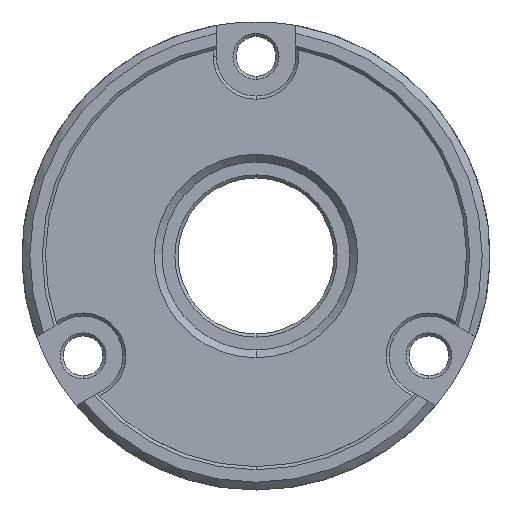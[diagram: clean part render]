
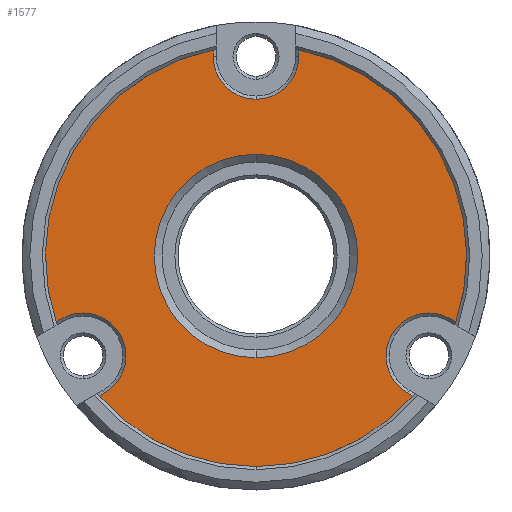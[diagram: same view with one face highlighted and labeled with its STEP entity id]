
A CAD part, front view. The second image highlights one B-rep face of the part: STEP entity #1577.
In plain terms, the highlighted planar face has unit normal (0, -1, 0).
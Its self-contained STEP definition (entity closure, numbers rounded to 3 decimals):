
#56 = VECTOR ( 'NONE', #1517, 1000. ) ;
#66 = CARTESIAN_POINT ( 'NONE',  ( 1.375, 0., -2.382 ) ) ;
#74 = ORIENTED_EDGE ( 'NONE', *, *, #2364, .T. ) ;
#103 = CARTESIAN_POINT ( 'NONE',  ( -2.75, 0., 0. ) ) ;
#115 = EDGE_CURVE ( 'NONE', #352, #1662, #3115, .T. ) ;
#120 = LINE ( 'NONE', #103, #2687 ) ;
#230 = FACE_BOUND ( 'NONE', #1177, .T. ) ;
#232 = ORIENTED_EDGE ( 'NONE', *, *, #640, .F. ) ;
#307 = LINE ( 'NONE', #66, #1100 ) ;
#347 = VERTEX_POINT ( 'NONE', #2354 ) ;
#352 = VERTEX_POINT ( 'NONE', #3549 ) ;
#388 = CIRCLE ( 'NONE', #3218, 2.75 ) ;
#454 = ORIENTED_EDGE ( 'NONE', *, *, #1838, .T. ) ;
#461 = AXIS2_PLACEMENT_3D ( 'NONE', #1446, #812, #2043 ) ;
#478 = CARTESIAN_POINT ( 'NONE',  ( 10.071, 0., -8.99 ) ) ;
#536 = CARTESIAN_POINT ( 'NONE',  ( 0., 0., 0. ) ) ;
#540 = ORIENTED_EDGE ( 'NONE', *, *, #2345, .T. ) ;
#582 = DIRECTION ( 'NONE',  ( 0., 0., -1. ) ) ;
#593 = ORIENTED_EDGE ( 'NONE', *, *, #115, .F. ) ;
#640 = EDGE_CURVE ( 'NONE', #3530, #347, #1364, .T. ) ;
#655 = CIRCLE ( 'NONE', #3753, 6.525 ) ;
#762 = LINE ( 'NONE', #3508, #2259 ) ;
#782 = CARTESIAN_POINT ( 'NONE',  ( 0., 0., -6.525 ) ) ;
#812 = DIRECTION ( 'NONE',  ( 0., 1., 0. ) ) ;
#882 = LINE ( 'NONE', #1172, #3154 ) ;
#909 = ORIENTED_EDGE ( 'NONE', *, *, #3707, .T. ) ;
#1003 = CARTESIAN_POINT ( 'NONE',  ( 0., 0., 10.05 ) ) ;
#1013 = DIRECTION ( 'NONE',  ( 0., 1., 0. ) ) ;
#1029 = DIRECTION ( 'NONE',  ( 0., 0., 1. ) ) ;
#1072 = CARTESIAN_POINT ( 'NONE',  ( -12.821, 0., -4.227 ) ) ;
#1096 = AXIS2_PLACEMENT_3D ( 'NONE', #1318, #1013, #1029 ) ;
#1100 = VECTOR ( 'NONE', #3378, 1000. ) ;
#1106 = VERTEX_POINT ( 'NONE', #2605 ) ;
#1110 = DIRECTION ( 'NONE',  ( 0., 0., -1. ) ) ;
#1151 = AXIS2_PLACEMENT_3D ( 'NONE', #3048, #1842, #2520 ) ;
#1161 = PLANE ( 'NONE',  #3038 ) ;
#1172 = CARTESIAN_POINT ( 'NONE',  ( 1.375, 0., 2.382 ) ) ;
#1177 = EDGE_LOOP ( 'NONE', ( #74, #3619 ) ) ;
#1185 = CARTESIAN_POINT ( 'NONE',  ( -2.75, 0., 12.8 ) ) ;
#1223 = AXIS2_PLACEMENT_3D ( 'NONE', #3036, #1773, #1789 ) ;
#1248 = CARTESIAN_POINT ( 'NONE',  ( 9.71, 0., -8.782 ) ) ;
#1267 = CARTESIAN_POINT ( 'NONE',  ( -12.46, 0., -4.018 ) ) ;
#1302 = ORIENTED_EDGE ( 'NONE', *, *, #3819, .T. ) ;
#1313 = AXIS2_PLACEMENT_3D ( 'NONE', #1528, #1865, #1576 ) ;
#1318 = CARTESIAN_POINT ( 'NONE',  ( 0., 0., 0. ) ) ;
#1331 = CARTESIAN_POINT ( 'NONE',  ( 0., 0., 12.8 ) ) ;
#1364 = CIRCLE ( 'NONE', #1813, 13.5 ) ;
#1381 = AXIS2_PLACEMENT_3D ( 'NONE', #3646, #2115, #582 ) ;
#1389 = VERTEX_POINT ( 'NONE', #1763 ) ;
#1446 = CARTESIAN_POINT ( 'NONE',  ( 0., 0., 12.8 ) ) ;
#1505 = CIRCLE ( 'NONE', #1313, 13.5 ) ;
#1517 = DIRECTION ( 'NONE',  ( 0.866, 0., 0.5 ) ) ;
#1528 = CARTESIAN_POINT ( 'NONE',  ( 0., 0., 0. ) ) ;
#1554 = CIRCLE ( 'NONE', #1223, 2.75 ) ;
#1570 = EDGE_CURVE ( 'NONE', #1389, #3590, #655, .T. ) ;
#1576 = DIRECTION ( 'NONE',  ( 0., 0., -1. ) ) ;
#1577 = ADVANCED_FACE ( 'NONE', ( #230, #3915 ), #1161, .F. ) ;
#1590 = CARTESIAN_POINT ( 'NONE',  ( 12.46, 0., -4.018 ) ) ;
#1597 = VERTEX_POINT ( 'NONE', #1185 ) ;
#1629 = LINE ( 'NONE', #2148, #2106 ) ;
#1644 = DIRECTION ( 'NONE',  ( 0., 1., 0. ) ) ;
#1662 = VERTEX_POINT ( 'NONE', #3401 ) ;
#1663 = DIRECTION ( 'NONE',  ( 0., 0., -1. ) ) ;
#1673 = VERTEX_POINT ( 'NONE', #1267 ) ;
#1693 = VERTEX_POINT ( 'NONE', #1248 ) ;
#1763 = CARTESIAN_POINT ( 'NONE',  ( 0., 0., 6.525 ) ) ;
#1773 = DIRECTION ( 'NONE',  ( 0., 1., 0. ) ) ;
#1789 = DIRECTION ( 'NONE',  ( 0., 0., 1. ) ) ;
#1813 = AXIS2_PLACEMENT_3D ( 'NONE', #1960, #2540, #1663 ) ;
#1838 = EDGE_CURVE ( 'NONE', #2067, #1597, #2710, .T. ) ;
#1842 = DIRECTION ( 'NONE',  ( 0., 1., 0. ) ) ;
#1865 = DIRECTION ( 'NONE',  ( 0., 1., 0. ) ) ;
#1920 = DIRECTION ( 'NONE',  ( -0.866, 0., 0.5 ) ) ;
#1928 = EDGE_CURVE ( 'NONE', #3422, #1106, #1505, .T. ) ;
#1960 = CARTESIAN_POINT ( 'NONE',  ( 0., 0., 0. ) ) ;
#1968 = DIRECTION ( 'NONE',  ( 0., 0., 1. ) ) ;
#2043 = DIRECTION ( 'NONE',  ( 0., 0., 1. ) ) ;
#2067 = VERTEX_POINT ( 'NONE', #1003 ) ;
#2106 = VECTOR ( 'NONE', #1920, 1000. ) ;
#2108 = DIRECTION ( 'NONE',  ( 0., 0., 1. ) ) ;
#2115 = DIRECTION ( 'NONE',  ( 0., 1., 0. ) ) ;
#2148 = CARTESIAN_POINT ( 'NONE',  ( -1.375, 0., -2.382 ) ) ;
#2175 = DIRECTION ( 'NONE',  ( 0., 0., 1. ) ) ;
#2218 = ORIENTED_EDGE ( 'NONE', *, *, #3192, .T. ) ;
#2259 = VECTOR ( 'NONE', #1110, 1000. ) ;
#2284 = EDGE_CURVE ( 'NONE', #3530, #1693, #1629, .T. ) ;
#2337 = DIRECTION ( 'NONE',  ( 0., 0., 1. ) ) ;
#2345 = EDGE_CURVE ( 'NONE', #1693, #3288, #2375, .T. ) ;
#2354 = CARTESIAN_POINT ( 'NONE',  ( -10.071, 0., -8.99 ) ) ;
#2364 = EDGE_CURVE ( 'NONE', #3590, #1389, #2824, .T. ) ;
#2375 = CIRCLE ( 'NONE', #1151, 2.75 ) ;
#2392 = CARTESIAN_POINT ( 'NONE',  ( 0., 0., 0. ) ) ;
#2401 = DIRECTION ( 'NONE',  ( 0.866, 0., -0.5 ) ) ;
#2486 = EDGE_CURVE ( 'NONE', #352, #3121, #762, .T. ) ;
#2520 = DIRECTION ( 'NONE',  ( 0., 0., 1. ) ) ;
#2540 = DIRECTION ( 'NONE',  ( 0., 1., 0. ) ) ;
#2583 = EDGE_CURVE ( 'NONE', #3422, #1673, #2686, .T. ) ;
#2602 = ORIENTED_EDGE ( 'NONE', *, *, #3006, .T. ) ;
#2605 = CARTESIAN_POINT ( 'NONE',  ( -2.75, 0., 13.217 ) ) ;
#2650 = ORIENTED_EDGE ( 'NONE', *, *, #3801, .T. ) ;
#2686 = LINE ( 'NONE', #2711, #56 ) ;
#2687 = VECTOR ( 'NONE', #1968, 1000. ) ;
#2710 = CIRCLE ( 'NONE', #461, 2.75 ) ;
#2711 = CARTESIAN_POINT ( 'NONE',  ( -1.375, 0., 2.382 ) ) ;
#2824 = CIRCLE ( 'NONE', #1096, 6.525 ) ;
#2841 = CARTESIAN_POINT ( 'NONE',  ( -9.71, 0., -8.782 ) ) ;
#2961 = ORIENTED_EDGE ( 'NONE', *, *, #2486, .T. ) ;
#3006 = EDGE_CURVE ( 'NONE', #1597, #1106, #120, .T. ) ;
#3014 = DIRECTION ( 'NONE',  ( 0., 1., 0. ) ) ;
#3036 = CARTESIAN_POINT ( 'NONE',  ( -11.085, 0., -6.4 ) ) ;
#3038 = AXIS2_PLACEMENT_3D ( 'NONE', #2392, #3623, #2108 ) ;
#3048 = CARTESIAN_POINT ( 'NONE',  ( 11.085, 0., -6.4 ) ) ;
#3115 = CIRCLE ( 'NONE', #1381, 13.5 ) ;
#3121 = VERTEX_POINT ( 'NONE', #3903 ) ;
#3154 = VECTOR ( 'NONE', #2401, 1000. ) ;
#3192 = EDGE_CURVE ( 'NONE', #3288, #1662, #882, .T. ) ;
#3203 = ORIENTED_EDGE ( 'NONE', *, *, #2284, .T. ) ;
#3218 = AXIS2_PLACEMENT_3D ( 'NONE', #1331, #1644, #2175 ) ;
#3288 = VERTEX_POINT ( 'NONE', #1590 ) ;
#3310 = EDGE_LOOP ( 'NONE', ( #540, #2218, #593, #2961, #2650, #454, #2602, #3532, #3635, #909, #1302, #232, #3203 ) ) ;
#3372 = VERTEX_POINT ( 'NONE', #2841 ) ;
#3378 = DIRECTION ( 'NONE',  ( -0.866, 0., -0.5 ) ) ;
#3401 = CARTESIAN_POINT ( 'NONE',  ( 12.821, 0., -4.227 ) ) ;
#3422 = VERTEX_POINT ( 'NONE', #1072 ) ;
#3508 = CARTESIAN_POINT ( 'NONE',  ( 2.75, 0., 0. ) ) ;
#3530 = VERTEX_POINT ( 'NONE', #478 ) ;
#3532 = ORIENTED_EDGE ( 'NONE', *, *, #1928, .F. ) ;
#3549 = CARTESIAN_POINT ( 'NONE',  ( 2.75, 0., 13.217 ) ) ;
#3590 = VERTEX_POINT ( 'NONE', #782 ) ;
#3619 = ORIENTED_EDGE ( 'NONE', *, *, #1570, .T. ) ;
#3623 = DIRECTION ( 'NONE',  ( 0., 1., 0. ) ) ;
#3635 = ORIENTED_EDGE ( 'NONE', *, *, #2583, .T. ) ;
#3646 = CARTESIAN_POINT ( 'NONE',  ( 0., 0., 0. ) ) ;
#3707 = EDGE_CURVE ( 'NONE', #1673, #3372, #1554, .T. ) ;
#3753 = AXIS2_PLACEMENT_3D ( 'NONE', #536, #3014, #2337 ) ;
#3801 = EDGE_CURVE ( 'NONE', #3121, #2067, #388, .T. ) ;
#3819 = EDGE_CURVE ( 'NONE', #3372, #347, #307, .T. ) ;
#3903 = CARTESIAN_POINT ( 'NONE',  ( 2.75, 0., 12.8 ) ) ;
#3915 = FACE_OUTER_BOUND ( 'NONE', #3310, .T. ) ;
